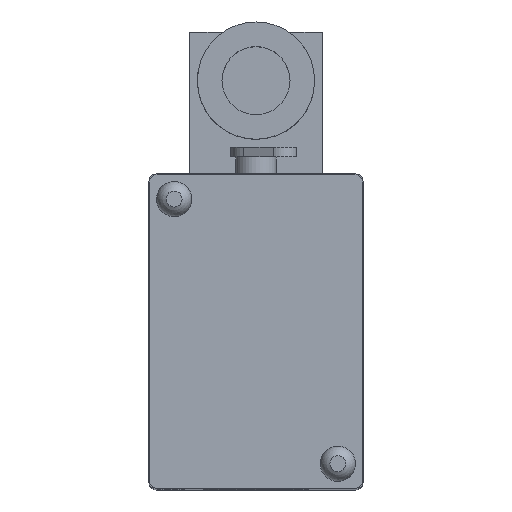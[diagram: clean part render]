
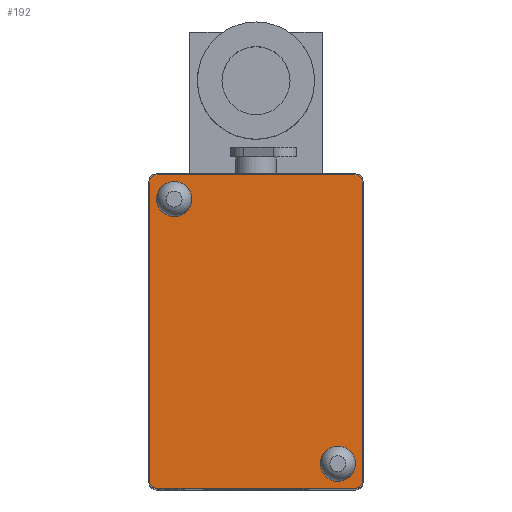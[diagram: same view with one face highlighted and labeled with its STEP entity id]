
A CAD part, top view. The second image highlights one B-rep face of the part: STEP entity #192.
In plain terms, the highlighted planar face has unit normal (0, 0, 1).
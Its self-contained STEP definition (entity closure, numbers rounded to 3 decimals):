
#192 = ADVANCED_FACE( '', ( #467, #468, #469 ), #470, .T. );
#467 = FACE_BOUND( '', #840, .T. );
#468 = FACE_BOUND( '', #841, .T. );
#469 = FACE_OUTER_BOUND( '', #842, .T. );
#470 = PLANE( '', #843 );
#840 = EDGE_LOOP( '', ( #1350 ) );
#841 = EDGE_LOOP( '', ( #1351 ) );
#842 = EDGE_LOOP( '', ( #1352, #1353, #1354, #1355, #1356, #1357, #1358, #1359 ) );
#843 = AXIS2_PLACEMENT_3D( '', #1360, #1361, #1362 );
#1350 = ORIENTED_EDGE( '', *, *, #2068, .T. );
#1351 = ORIENTED_EDGE( '', *, *, #2069, .T. );
#1352 = ORIENTED_EDGE( '', *, *, #2070, .T. );
#1353 = ORIENTED_EDGE( '', *, *, #1936, .T. );
#1354 = ORIENTED_EDGE( '', *, *, #2071, .T. );
#1355 = ORIENTED_EDGE( '', *, *, #2072, .T. );
#1356 = ORIENTED_EDGE( '', *, *, #2073, .T. );
#1357 = ORIENTED_EDGE( '', *, *, #2074, .T. );
#1358 = ORIENTED_EDGE( '', *, *, #2075, .T. );
#1359 = ORIENTED_EDGE( '', *, *, #2076, .T. );
#1360 = CARTESIAN_POINT( '', ( -15.7, 23.7, 10. ) );
#1361 = DIRECTION( '', ( 0., 0., 1. ) );
#1362 = DIRECTION( '', ( 1., 0., 0. ) );
#1936 = EDGE_CURVE( '', #2257, #2255, #2258, .T. );
#2068 = EDGE_CURVE( '', #2477, #2477, #2478, .T. );
#2069 = EDGE_CURVE( '', #2479, #2479, #2480, .T. );
#2070 = EDGE_CURVE( '', #2481, #2257, #2482, .T. );
#2071 = EDGE_CURVE( '', #2255, #2483, #2484, .T. );
#2072 = EDGE_CURVE( '', #2483, #2485, #2486, .T. );
#2073 = EDGE_CURVE( '', #2485, #2487, #2488, .T. );
#2074 = EDGE_CURVE( '', #2487, #2489, #2490, .T. );
#2075 = EDGE_CURVE( '', #2489, #2491, #2492, .T. );
#2076 = EDGE_CURVE( '', #2491, #2481, #2493, .T. );
#2255 = VERTEX_POINT( '', #2728 );
#2257 = VERTEX_POINT( '', #2731 );
#2258 = LINE( '', #2732, #2733 );
#2477 = VERTEX_POINT( '', #3003 );
#2478 = CIRCLE( '', #3004, 2.8 );
#2479 = VERTEX_POINT( '', #3005 );
#2480 = CIRCLE( '', #3006, 2.8 );
#2481 = VERTEX_POINT( '', #3007 );
#2482 = CIRCLE( '', #3008, 1.2 );
#2483 = VERTEX_POINT( '', #3009 );
#2484 = CIRCLE( '', #3010, 1.2 );
#2485 = VERTEX_POINT( '', #3011 );
#2486 = LINE( '', #3012, #3013 );
#2487 = VERTEX_POINT( '', #3014 );
#2488 = CIRCLE( '', #3015, 1.2 );
#2489 = VERTEX_POINT( '', #3016 );
#2490 = LINE( '', #3017, #3018 );
#2491 = VERTEX_POINT( '', #3019 );
#2492 = CIRCLE( '', #3020, 1.2 );
#2493 = LINE( '', #3021, #3022 );
#2728 = CARTESIAN_POINT( '', ( -16.9, -23.7, 10. ) );
#2731 = CARTESIAN_POINT( '', ( -16.9, 23.7, 10. ) );
#2732 = CARTESIAN_POINT( '', ( -16.9, 23.7, 10. ) );
#2733 = VECTOR( '', #3324, 1000. );
#3003 = CARTESIAN_POINT( '', ( 10.2, -21., 10. ) );
#3004 = AXIS2_PLACEMENT_3D( '', #3523, #3524, #3525 );
#3005 = CARTESIAN_POINT( '', ( -15.8, 21., 10. ) );
#3006 = AXIS2_PLACEMENT_3D( '', #3526, #3527, #3528 );
#3007 = CARTESIAN_POINT( '', ( -15.7, 24.9, 10. ) );
#3008 = AXIS2_PLACEMENT_3D( '', #3529, #3530, #3531 );
#3009 = CARTESIAN_POINT( '', ( -15.7, -24.9, 10. ) );
#3010 = AXIS2_PLACEMENT_3D( '', #3532, #3533, #3534 );
#3011 = CARTESIAN_POINT( '', ( 15.7, -24.9, 10. ) );
#3012 = CARTESIAN_POINT( '', ( -15.7, -24.9, 10. ) );
#3013 = VECTOR( '', #3535, 1000. );
#3014 = CARTESIAN_POINT( '', ( 16.9, -23.7, 10. ) );
#3015 = AXIS2_PLACEMENT_3D( '', #3536, #3537, #3538 );
#3016 = CARTESIAN_POINT( '', ( 16.9, 23.7, 10. ) );
#3017 = CARTESIAN_POINT( '', ( 16.9, -23.7, 10. ) );
#3018 = VECTOR( '', #3539, 1000. );
#3019 = CARTESIAN_POINT( '', ( 15.7, 24.9, 10. ) );
#3020 = AXIS2_PLACEMENT_3D( '', #3540, #3541, #3542 );
#3021 = CARTESIAN_POINT( '', ( 15.7, 24.9, 10. ) );
#3022 = VECTOR( '', #3543, 1000. );
#3324 = DIRECTION( '', ( 0., -1., 0. ) );
#3523 = CARTESIAN_POINT( '', ( 13., -21., 10. ) );
#3524 = DIRECTION( '', ( 0., 0., -1. ) );
#3525 = DIRECTION( '', ( -1., 0., 0. ) );
#3526 = CARTESIAN_POINT( '', ( -13., 21., 10. ) );
#3527 = DIRECTION( '', ( 0., 0., -1. ) );
#3528 = DIRECTION( '', ( -1., 0., 0. ) );
#3529 = CARTESIAN_POINT( '', ( -15.7, 23.7, 10. ) );
#3530 = DIRECTION( '', ( 0., 0., 1. ) );
#3531 = DIRECTION( '', ( 1., 0., 0. ) );
#3532 = CARTESIAN_POINT( '', ( -15.7, -23.7, 10. ) );
#3533 = DIRECTION( '', ( 0., 0., 1. ) );
#3534 = DIRECTION( '', ( 1., 0., 0. ) );
#3535 = DIRECTION( '', ( 1., 0., 0. ) );
#3536 = CARTESIAN_POINT( '', ( 15.7, -23.7, 10. ) );
#3537 = DIRECTION( '', ( 0., 0., 1. ) );
#3538 = DIRECTION( '', ( 1., 0., 0. ) );
#3539 = DIRECTION( '', ( 0., 1., 0. ) );
#3540 = CARTESIAN_POINT( '', ( 15.7, 23.7, 10. ) );
#3541 = DIRECTION( '', ( 0., 0., 1. ) );
#3542 = DIRECTION( '', ( 1., 0., 0. ) );
#3543 = DIRECTION( '', ( -1., 0., 0. ) );
